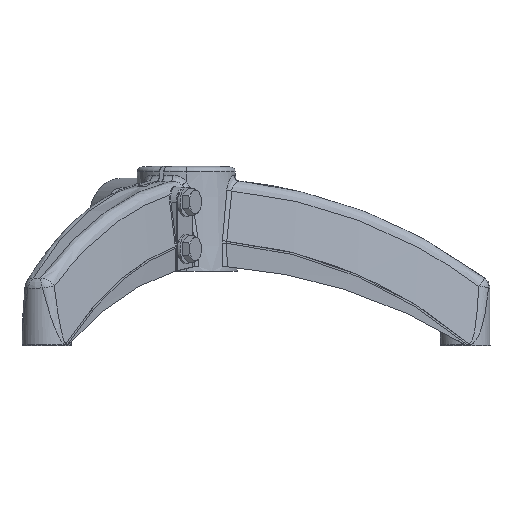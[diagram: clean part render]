
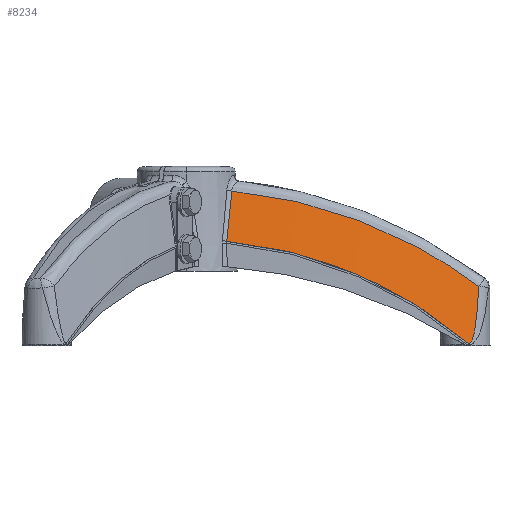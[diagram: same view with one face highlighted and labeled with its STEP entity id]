
A CAD part, left-side view. The second image highlights one B-rep face of the part: STEP entity #8234.
In plain terms, the highlighted free-form (B-spline) face has degree [5, 1] with [12, 2] control points.
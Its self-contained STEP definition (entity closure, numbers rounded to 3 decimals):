
#4029=CARTESIAN_POINT('Vertex',(-20.592,-36.76,124.762)) ;
#4102=CARTESIAN_POINT('Vertex',(-26.743,-32.63,84.216)) ;
#4106=CARTESIAN_POINT('Control Point',(-26.743,-32.63,84.216)) ;
#4107=CARTESIAN_POINT('Control Point',(-25.512,-33.623,92.31)) ;
#4108=CARTESIAN_POINT('Control Point',(-24.28,-34.521,100.413)) ;
#4109=CARTESIAN_POINT('Control Point',(-23.051,-35.338,108.519)) ;
#4110=CARTESIAN_POINT('Control Point',(-21.821,-36.083,116.637)) ;
#4111=CARTESIAN_POINT('Control Point',(-20.592,-36.76,124.762)) ;
#8143=CARTESIAN_POINT('Vertex',(-13.152,-235.926,47.827)) ;
#8147=CARTESIAN_POINT('Control Point',(-13.152,-235.926,47.827)) ;
#8148=CARTESIAN_POINT('Control Point',(-14.082,-221.539,58.627)) ;
#8149=CARTESIAN_POINT('Control Point',(-14.981,-206.532,68.602)) ;
#8150=CARTESIAN_POINT('Control Point',(-15.833,-190.968,77.707)) ;
#8151=CARTESIAN_POINT('Control Point',(-17.731,-152.396,97.395)) ;
#8152=CARTESIAN_POINT('Control Point',(-19.197,-111.415,111.645)) ;
#8153=CARTESIAN_POINT('Control Point',(-19.871,-86.868,118.022)) ;
#8154=CARTESIAN_POINT('Control Point',(-20.339,-61.91,122.401)) ;
#8155=CARTESIAN_POINT('Control Point',(-20.592,-36.76,124.762)) ;
#8165=CARTESIAN_POINT('Control Point',(-19.719,-228.38,1.23)) ;
#8166=CARTESIAN_POINT('Control Point',(-11.891,-254.788,32.669)) ;
#8167=CARTESIAN_POINT('Control Point',(-20.714,-212.547,14.796)) ;
#8168=CARTESIAN_POINT('Control Point',(-13.118,-237.109,47.799)) ;
#8169=CARTESIAN_POINT('Control Point',(-21.687,-195.705,27.191)) ;
#8170=CARTESIAN_POINT('Control Point',(-14.316,-218.307,61.616)) ;
#8171=CARTESIAN_POINT('Control Point',(-22.607,-177.966,38.314)) ;
#8172=CARTESIAN_POINT('Control Point',(-15.45,-198.51,74.012)) ;
#8173=CARTESIAN_POINT('Control Point',(-23.829,-151.034,52.531)) ;
#8174=CARTESIAN_POINT('Control Point',(-16.956,-168.459,89.851)) ;
#8175=CARTESIAN_POINT('Control Point',(-24.836,-122.778,63.741)) ;
#8176=CARTESIAN_POINT('Control Point',(-18.196,-136.937,102.336)) ;
#8177=CARTESIAN_POINT('Control Point',(-25.128,-113.818,66.948)) ;
#8178=CARTESIAN_POINT('Control Point',(-18.556,-126.942,105.909)) ;
#8179=CARTESIAN_POINT('Control Point',(-25.755,-92.532,73.764)) ;
#8180=CARTESIAN_POINT('Control Point',(-19.328,-103.199,113.499)) ;
#8181=CARTESIAN_POINT('Control Point',(-26.236,-70.757,78.871)) ;
#8182=CARTESIAN_POINT('Control Point',(-19.921,-78.912,119.186)) ;
#8183=CARTESIAN_POINT('Control Point',(-26.461,-58.127,81.23)) ;
#8184=CARTESIAN_POINT('Control Point',(-20.197,-64.826,121.812)) ;
#8185=CARTESIAN_POINT('Control Point',(-26.631,-45.405,83.008)) ;
#8186=CARTESIAN_POINT('Control Point',(-20.407,-50.638,123.792)) ;
#8187=CARTESIAN_POINT('Control Point',(-26.745,-32.629,84.202)) ;
#8188=CARTESIAN_POINT('Control Point',(-20.548,-36.389,125.121)) ;
#8190=CARTESIAN_POINT('Control Point',(-26.743,-32.63,84.216)) ;
#8191=CARTESIAN_POINT('Control Point',(-26.36,-75.362,80.223)) ;
#8192=CARTESIAN_POINT('Control Point',(-25.356,-117.477,69.695)) ;
#8193=CARTESIAN_POINT('Control Point',(-23.775,-157.624,52.76)) ;
#8194=CARTESIAN_POINT('Control Point',(-21.835,-194.527,29.991)) ;
#8195=CARTESIAN_POINT('Control Point',(-19.793,-227.189,2.252)) ;
#8196=CARTESIAN_POINT('Vertex',(-19.793,-227.189,2.252)) ;
#8200=CARTESIAN_POINT('Control Point',(-19.793,-227.189,2.252)) ;
#8201=CARTESIAN_POINT('Control Point',(-19.78,-227.402,2.072)) ;
#8202=CARTESIAN_POINT('Control Point',(-19.76,-227.629,1.927)) ;
#8203=CARTESIAN_POINT('Control Point',(-19.732,-227.875,1.828)) ;
#8204=CARTESIAN_POINT('Control Point',(-19.67,-228.283,1.794)) ;
#8205=CARTESIAN_POINT('Control Point',(-19.587,-228.692,1.95)) ;
#8206=CARTESIAN_POINT('Control Point',(-19.554,-228.837,2.032)) ;
#8207=CARTESIAN_POINT('Control Point',(-19.454,-229.248,2.332)) ;
#8208=CARTESIAN_POINT('Control Point',(-19.345,-229.611,2.777)) ;
#8209=CARTESIAN_POINT('Control Point',(-19.272,-229.828,3.11)) ;
#8210=CARTESIAN_POINT('Control Point',(-19.071,-230.38,4.092)) ;
#8211=CARTESIAN_POINT('Control Point',(-18.876,-230.814,5.194)) ;
#8212=CARTESIAN_POINT('Control Point',(-18.755,-231.062,5.909)) ;
#8213=CARTESIAN_POINT('Control Point',(-18.421,-231.692,7.955)) ;
#8214=CARTESIAN_POINT('Control Point',(-18.101,-232.182,10.071)) ;
#8215=CARTESIAN_POINT('Control Point',(-17.904,-232.459,11.413)) ;
#8216=CARTESIAN_POINT('Control Point',(-17.366,-233.152,15.154)) ;
#8217=CARTESIAN_POINT('Control Point',(-16.847,-233.686,18.943)) ;
#8218=CARTESIAN_POINT('Control Point',(-16.527,-233.982,21.329)) ;
#8219=CARTESIAN_POINT('Control Point',(-15.828,-234.561,26.607)) ;
#8220=CARTESIAN_POINT('Control Point',(-15.144,-235.01,31.923)) ;
#8221=CARTESIAN_POINT('Control Point',(-14.777,-235.223,34.806)) ;
#8222=CARTESIAN_POINT('Control Point',(-14.231,-235.503,39.139)) ;
#8223=CARTESIAN_POINT('Control Point',(-13.689,-235.731,43.49)) ;
#8224=CARTESIAN_POINT('Control Point',(-13.509,-235.801,44.934)) ;
#8225=CARTESIAN_POINT('Control Point',(-13.33,-235.866,46.38)) ;
#8226=CARTESIAN_POINT('Control Point',(-13.152,-235.926,47.827)) ;
#8229=ORIENTED_EDGE('',*,*,#4112,.T.) ;
#8230=ORIENTED_EDGE('',*,*,#8198,.T.) ;
#8231=ORIENTED_EDGE('',*,*,#8227,.T.) ;
#8232=ORIENTED_EDGE('',*,*,#8156,.T.) ;
#8234=ADVANCED_FACE('PartBody',(#8233),#8164,.F.) ;
#4105=B_SPLINE_CURVE_WITH_KNOTS('',5,(#4106,#4107,#4108,#4109,#4110,#4111),.UNSPECIFIED.,.F.,.U.,(6,6),(60.953,119.269),.UNSPECIFIED.) ;
#8146=B_SPLINE_CURVE_WITH_KNOTS('',5,(#8147,#8148,#8149,#8150,#8151,#8152,#8153,#8154,#8155),.UNSPECIFIED.,.F.,.U.,(6,3,6),(117.207,270.108,484.598),.UNSPECIFIED.) ;
#8189=B_SPLINE_CURVE_WITH_KNOTS('',5,(#8190,#8191,#8192,#8193,#8194,#8195),.UNSPECIFIED.,.F.,.U.,(6,6),(143.232,532.058),.UNSPECIFIED.) ;
#8199=B_SPLINE_CURVE_WITH_KNOTS('',5,(#8200,#8201,#8202,#8203,#8204,#8205,#8206,#8207,#8208,#8209,#8210,#8211,#8212,#8213,#8214,#8215,#8216,#8217,#8218,#8219,#8220,#8221,#8222,#8223,#8224,#8225,#8226),.UNSPECIFIED.,.F.,.U.,(6,3,3,3,3,3,3,3,6),(114.613,117.731,119.505,122.926,129.097,140.045,158.967,181.332,192.423),.UNSPECIFIED.) ;
#8164=B_SPLINE_SURFACE_WITH_KNOTS('',5,1,((#8165,#8166),(#8167,#8168),(#8169,#8170),(#8171,#8172),(#8173,#8174),(#8175,#8176),(#8177,#8178),(#8179,#8180),(#8181,#8182),(#8183,#8184),(#8185,#8186),(#8187,#8188)),.UNSPECIFIED.,.F.,.F.,.U.,(6,3,3,6),(2,2),(60.784,218.872,290.889,388.019),(0.733,42.399),.UNSPECIFIED.) ;
#4112=EDGE_CURVE('',#4030,#4103,#4105,.F.) ;
#8156=EDGE_CURVE('',#8144,#4030,#8146,.T.) ;
#8198=EDGE_CURVE('',#4103,#8197,#8189,.T.) ;
#8227=EDGE_CURVE('',#8197,#8144,#8199,.T.) ;
#8228=EDGE_LOOP('',(#8229,#8230,#8231,#8232)) ;
#8233=FACE_OUTER_BOUND('',#8228,.T.) ;
#4030=VERTEX_POINT('',#4029) ;
#4103=VERTEX_POINT('',#4102) ;
#8144=VERTEX_POINT('',#8143) ;
#8197=VERTEX_POINT('',#8196) ;
